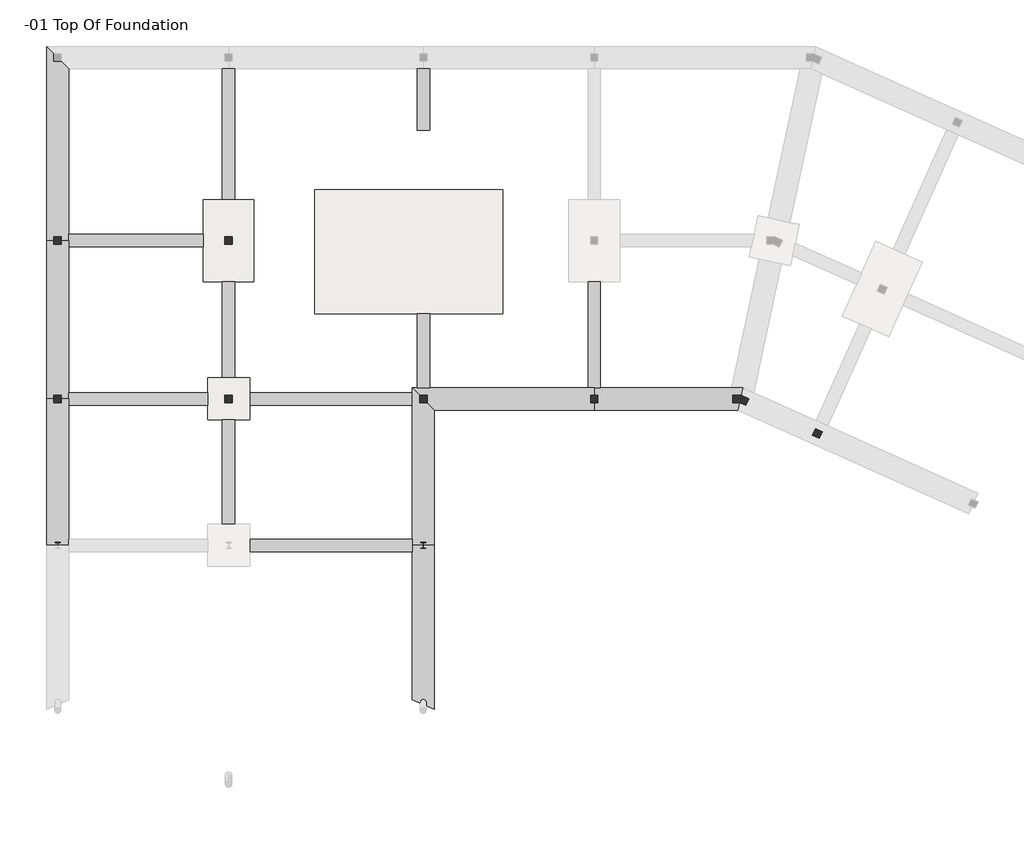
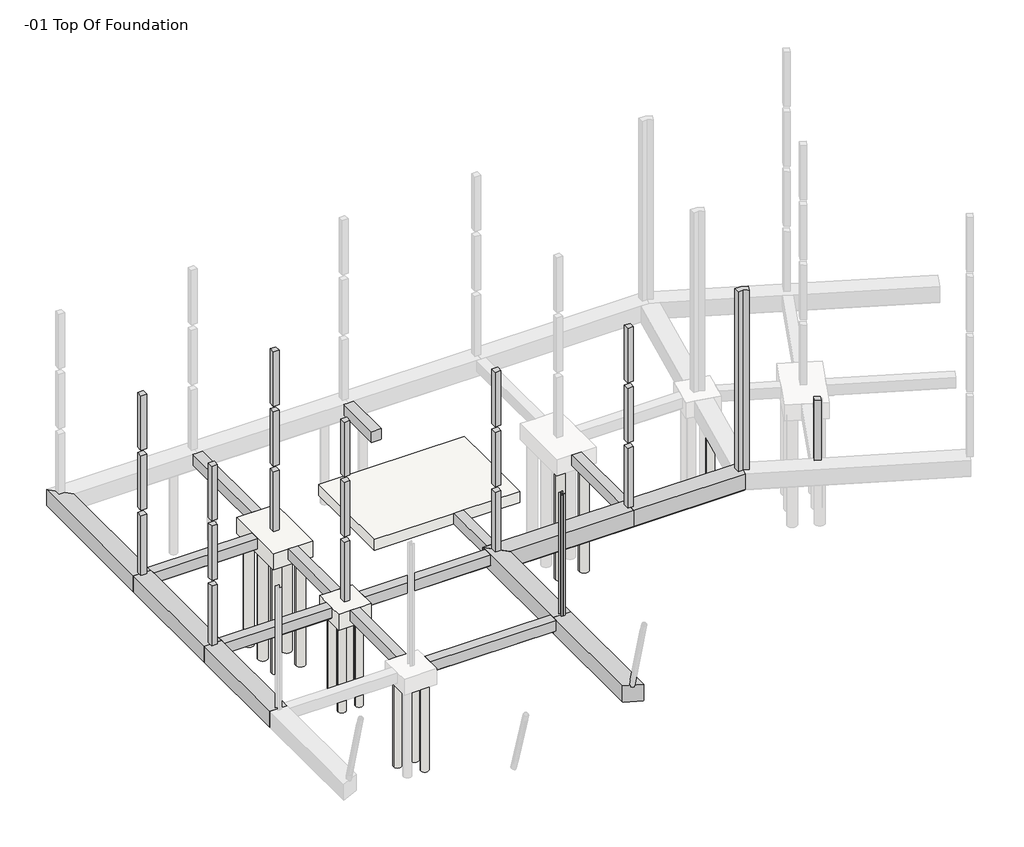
# One storey, part 2 of 4: 19 slabs, 17 beams, 10 columns.
"""IFC4 building model written with IfcOpenShell, lengths in millimetres."""

import ifcopenshell
import ifcopenshell.guid

model = None  # the IFC model being written
_history = None  # IfcOwnerHistory: only IFC2X3 demands one
_inside = {}  # id of a spatial element -> (the spatial element, [elements in it])
_under = {}  # id of a project, library or spatial element -> (it, [spatial elements below it])
_declared = {}  # id of a project -> (the project, [libraries it declares])
_typed = {}  # id of a type object -> (the type object, [elements of that type])
_made_of = {}  # id of a material, layer set ... -> (it, [elements and type objects made of it])


def new_model(schema):
    """Start an empty IFC model of exactly this schema.

    Asked for "IFC4X3", IfcOpenShell would pick the latest addendum, in which some entities
    have other attributes; the version numbers below select the first issue.
    IFC2X3 requires an IfcOwnerHistory on every rooted entity: one is made here for all.
    """
    global model, _history
    if schema == "IFC4X3":
        model = ifcopenshell.file(schema_version=(4, 3, 0, 0))
    else:
        model = ifcopenshell.file(schema=schema)
    _inside.clear()
    _under.clear()
    _declared.clear()
    _typed.clear()
    _made_of.clear()
    _history = None
    if model.schema == "IFC2X3":
        org = make("IfcOrganization", Name="unknown")
        user = make(
            "IfcPersonAndOrganization",
            ThePerson=make("IfcPerson", FamilyName="unknown"),
            TheOrganization=org,
        )
        app = make(
            "IfcApplication",
            ApplicationDeveloper=org,
            Version="unknown",
            ApplicationFullName="unknown",
            ApplicationIdentifier="unknown",
        )
        _history = make(
            "IfcOwnerHistory",
            OwningUser=user,
            OwningApplication=app,
            ChangeAction="ADDED",
            CreationDate=0,
        )
    return model


def make(cls, **values):
    """One entity of the class cls with the attributes given. An attribute that is None is left unset."""
    return model.create_entity(
        cls, **{name: value for name, value in values.items() if value is not None}
    )


def rooted(cls, **values):
    """An entity with a GlobalId (a new one), such as an element, a storey or a relation."""
    return make(cls, GlobalId=ifcopenshell.guid.new(), OwnerHistory=_history, **values)


def si_unit(unit_type, name, prefix=None):
    """IfcSIUnit, for example si_unit("LENGTHUNIT", "METRE", prefix="MILLI")."""
    return make("IfcSIUnit", UnitType=unit_type, Prefix=prefix, Name=name)


def assignment(units):
    """IfcUnitAssignment: the units of a project."""
    return None if units is None else make("IfcUnitAssignment", Units=units)


def point(xyz):
    """IfcCartesianPoint."""
    return None if xyz is None else make("IfcCartesianPoint", Coordinates=xyz)


def direction(xyz):
    """IfcDirection."""
    return None if xyz is None else make("IfcDirection", DirectionRatios=xyz)


def frame(location, z_axis=None, x_axis=None):
    """IfcAxis2Placement3D, a coordinate frame: its origin and axes. An axis left out is left unset."""
    return make(
        "IfcAxis2Placement3D",
        Location=point(location),
        Axis=direction(z_axis),
        RefDirection=direction(x_axis),
    )


def frame_2d(location, x_axis=None):
    """IfcAxis2Placement2D, a coordinate frame in the plane: its origin and x axis."""
    return make(
        "IfcAxis2Placement2D", Location=point(location), RefDirection=direction(x_axis)
    )


def origin():
    """The frame at (0, 0, 0) with its axes left unset."""
    return frame((0.0, 0.0, 0.0))


def place(relative_to, where):
    """IfcLocalPlacement: puts the frame where relative to a parent placement (None: the world)."""
    return make(
        "IfcLocalPlacement", PlacementRelTo=relative_to, RelativePlacement=where
    )


def context(
    kind, dimensions, precision=None, world=None, true_north=None, identifier=None
):
    """IfcGeometricRepresentationContext, for example the 3D "Model" context."""
    return make(
        "IfcGeometricRepresentationContext",
        ContextIdentifier=identifier,
        ContextType=kind,
        CoordinateSpaceDimension=dimensions,
        Precision=precision,
        WorldCoordinateSystem=world,
        TrueNorth=true_north,
    )


def project(units=None, contexts=None):
    """IfcProject with its units and contexts."""
    return rooted(
        "IfcProject",
        Name="project",
        RepresentationContexts=contexts,
        UnitsInContext=assignment(units),
    )


def spatial(cls, under=None, at=None, **own):
    """A site, building, storey or space (cls), placed at a placement, below another one or the project."""
    s = rooted(cls, ObjectPlacement=at, **own)
    if under is not None:
        _under.setdefault(under.id(), (under, []))[1].append(s)
    return s


def polyline(points):
    """IfcPolyline through the points."""
    return make("IfcPolyline", Points=[point(p) for p in points])


def circle_curve(where, radius):
    """IfcCircle in the frame where."""
    return make("IfcCircle", Position=where, Radius=radius)


def trimmed(basis, trim1, trim2, sense, master):
    """IfcTrimmedCurve: the piece of a basis curve between two trims."""
    return make(
        "IfcTrimmedCurve",
        BasisCurve=basis,
        Trim1=trim1,
        Trim2=trim2,
        SenseAgreement=sense,
        MasterRepresentation=master,
    )


def segment(curve, same_sense, transition):
    """IfcCompositeCurveSegment."""
    return make(
        "IfcCompositeCurveSegment",
        Transition=transition,
        SameSense=same_sense,
        ParentCurve=curve,
    )


def composite_curve(segments, self_intersect=None):
    """IfcCompositeCurve: segments joined end to end."""
    return make("IfcCompositeCurve", Segments=segments, SelfIntersect=self_intersect)


def outline(outer, holes=None, kind="AREA"):
    """IfcArbitraryClosedProfileDef: a profile drawn as a closed curve; with holes, ...WithVoids."""
    if holes is None:
        return make("IfcArbitraryClosedProfileDef", ProfileType=kind, OuterCurve=outer)
    return make(
        "IfcArbitraryProfileDefWithVoids",
        ProfileType=kind,
        OuterCurve=outer,
        InnerCurves=holes,
    )


def extrude(swept, where, along, depth):
    """IfcExtrudedAreaSolid: the profile swept, set in the frame where, extruded along a direction by depth."""
    return make(
        "IfcExtrudedAreaSolid",
        SweptArea=swept,
        Position=where,
        ExtrudedDirection=direction(along),
        Depth=depth,
    )


def faces_of(points, faces, orient=None, outer=None):
    """IfcFace entities. A face is a list of loops; a loop is a list of indices into points, from 0.

    orient and outer hold one flag for each loop. By default every Orientation is true, the
    first loop of a face is its IfcFaceOuterBound and the others are IfcFaceBound.
    """
    made = []
    for i, loops in enumerate(faces):
        bounds = []
        for j, loop in enumerate(loops):
            is_outer = j == 0 if outer is None else outer[i][j]
            bounds.append(
                make(
                    "IfcFaceOuterBound" if is_outer else "IfcFaceBound",
                    Bound=make("IfcPolyLoop", Polygon=[points[k] for k in loop]),
                    Orientation=True if orient is None else orient[i][j],
                )
            )
        made.append(make("IfcFace", Bounds=bounds))
    return made


def faceted_brep(points, faces, orient=None, outer=None, voids=None):
    """IfcFacetedBrep: a solid bounded by flat faces; with voids (closed shells), ...WithVoids."""
    shared = [point(p) for p in points]
    hull = make("IfcClosedShell", CfsFaces=faces_of(shared, faces, orient, outer))
    if voids is None:
        return make("IfcFacetedBrep", Outer=hull)
    return make(
        "IfcFacetedBrepWithVoids",
        Outer=hull,
        Voids=[
            make(cls, CfsFaces=faces_of(shared, fs, o, b)) for cls, fs, o, b in voids
        ],
    )


def shape(context_of_items, identifier, shape_type, items):
    """IfcShapeRepresentation: the items that make up one representation, for example the "Body"."""
    return make(
        "IfcShapeRepresentation",
        ContextOfItems=context_of_items,
        RepresentationIdentifier=identifier,
        RepresentationType=shape_type,
        Items=items,
    )


def source(mapping_origin, context_of_items, identifier, shape_type, items):
    """IfcRepresentationMap: a shape defined once, which mapped items show again and again."""
    return make(
        "IfcRepresentationMap",
        MappingOrigin=mapping_origin,
        MappedRepresentation=shape(context_of_items, identifier, shape_type, items),
    )


def transform(
    local_origin,
    x_axis=None,
    y_axis=None,
    z_axis=None,
    scale=None,
    scale2=None,
    scale3=None,
    uniform=True,
):
    """IfcCartesianTransformationOperator3D, or its non-uniform kind. x_axis, y_axis, z_axis: its Axis1, 2, 3."""
    if uniform:
        return make(
            "IfcCartesianTransformationOperator3D",
            Axis1=direction(x_axis),
            Axis2=direction(y_axis),
            LocalOrigin=point(local_origin),
            Scale=scale,
            Axis3=direction(z_axis),
        )
    return make(
        "IfcCartesianTransformationOperator3DnonUniform",
        Axis1=direction(x_axis),
        Axis2=direction(y_axis),
        LocalOrigin=point(local_origin),
        Scale=scale,
        Axis3=direction(z_axis),
        Scale2=scale2,
        Scale3=scale3,
    )


def mapped(mapping_source, mapping_target):
    """IfcMappedItem: shows the shape of a source again, moved by a transform."""
    return make(
        "IfcMappedItem", MappingSource=mapping_source, MappingTarget=mapping_target
    )


def made_of(thing, what):
    """Note that an element or type object is made of a material, layer set ...; save() writes the relation."""
    if what is not None:
        _made_of.setdefault(what.id(), (what, []))[1].append(thing)
    return thing


def element(
    cls,
    number,
    at=None,
    inside=None,
    cuts=None,
    type_object=None,
    material=None,
    context=None,
    identifier="Body",
    shape_type=None,
    held_by="IfcProductDefinitionShape",
    body=None,
    shapes=None,
    **own,
):
    """One element of the class cls, such as IfcWall. Its Tag is "e" and its number.

    at: its placement. inside: the storey or other place that contains it. cuts: it is an
    opening in that element (IfcRelVoidsElement). A single representation is given by context,
    identifier, shape_type and body (its items); several are given by shapes. held_by: the class
    of the entity that holds the representations. save() writes the other relations.
    """
    e = rooted(cls, Tag="e%d" % number, ObjectPlacement=at, **own)
    if body is not None:
        shapes = [shape(context, identifier, shape_type, body)]
    if shapes is not None:
        e.Representation = make(held_by, Representations=shapes)
    if inside is not None:
        _inside.setdefault(inside.id(), (inside, []))[1].append(e)
    if cuts is not None:
        rooted(
            "IfcRelVoidsElement", RelatingBuildingElement=cuts, RelatedOpeningElement=e
        )
    if type_object is not None:
        _typed.setdefault(type_object.id(), (type_object, []))[1].append(e)
    return made_of(e, material)


def aggregate(whole, parts):
    """IfcRelAggregates: a whole, such as a stair, and the parts it consists of."""
    return rooted("IfcRelAggregates", RelatingObject=whole, RelatedObjects=parts)


def save(model, path):
    """Write the relations noted so far, then the file.

    IfcRelAggregates (storeys below a building ...), IfcRelContainedInSpatialStructure (elements
    in a storey), IfcRelDefinesByType, IfcRelAssociatesMaterial and IfcRelDeclares: one each for
    every whole, place, type object, material and project.
    """
    for whole, parts in _under.values():
        aggregate(whole, parts)
    for where, things in _inside.values():
        rooted(
            "IfcRelContainedInSpatialStructure",
            RelatedElements=things,
            RelatingStructure=where,
        )
    for kind, things in _typed.values():
        rooted("IfcRelDefinesByType", RelatedObjects=things, RelatingType=kind)
    for what, things in _made_of.values():
        rooted("IfcRelAssociatesMaterial", RelatedObjects=things, RelatingMaterial=what)
    for by, libraries in _declared.values():
        rooted("IfcRelDeclares", RelatingContext=by, RelatedDefinitions=libraries)
    model.write(path)


def plane_surface(at):
    """IfcPlane: the flat surface through the origin of the frame at, square to its z axis."""
    return make("IfcPlane", Position=at)


def cylinder_surface(at, radius):
    """IfcCylindricalSurface: all points at the distance radius from the z axis of the frame at."""
    return make("IfcCylindricalSurface", Position=at, Radius=radius)


def advanced_brep(points, edges, surfaces, faces):
    """IfcAdvancedBrep: a solid bounded by faces that lie on surfaces and meet in shared edges.

    An edge is (start, end): straight between two places in points (the first is 0);
    or (start, end, curve); or (start, end, curve, False) where it runs against its curve.
    A face is (place in surfaces, loops), or (place, loops, False) where it looks against
    its surface's normal. A loop lists edges by number (the first is 1), with a minus sign
    where the edge is run from its end to its start. The first loop is the outer one.
    """
    corners = [point(p) for p in points]
    vertices = [make("IfcVertexPoint", VertexGeometry=c) for c in corners]
    made = []
    for start, end, *more in edges:
        made.append(
            make(
                "IfcEdgeCurve",
                EdgeStart=vertices[start],
                EdgeEnd=vertices[end],
                EdgeGeometry=more[0] if more else make("IfcPolyline", Points=[corners[start], corners[end]]),
                SameSense=more[1] if len(more) > 1 else True,
            )
        )
    hull = []
    for where, loops, *sense in faces:
        bounds = []
        for j, loop in enumerate(loops):
            ring = [make("IfcOrientedEdge", EdgeElement=made[abs(k) - 1], Orientation=k > 0) for k in loop]
            bounds.append(
                make(
                    "IfcFaceOuterBound" if j == 0 else "IfcFaceBound",
                    Bound=make("IfcEdgeLoop", EdgeList=ring),
                    Orientation=True,
                )
            )
        hull.append(make("IfcAdvancedFace", Bounds=bounds, FaceSurface=surfaces[where], SameSense=sense[0] if sense else True))
    return make("IfcAdvancedBrep", Outer=make("IfcClosedShell", CfsFaces=hull))


def w_shapes_column_w10x33_60aa4128(model_context):
    return source(origin(), model_context, "Body", "SweptSolid", [
        extrude(outline(composite_curve([segment(polyline([(101.092, 123.571), (101.092, 112.522), (16.383, 112.522)]), True, "CONTINUOUS"), segment(trimmed(circle_curve(frame_2d((16.383, 99.822)), 12.7), [point((16.383, 112.522))], [point((3.683, 99.822))], True, "CARTESIAN"), True, "CONTINUOUS"), segment(polyline([(3.683, 99.822), (3.683, -99.822)]), True, "CONTINUOUS"), segment(trimmed(circle_curve(frame_2d((16.383, -99.822)), 12.7), [point((3.683, -99.822))], [point((16.383, -112.522))], True, "CARTESIAN"), True, "CONTINUOUS"), segment(polyline([(16.383, -112.522), (101.092, -112.522), (101.092, -123.571), (-101.092, -123.571), (-101.092, -112.522), (-16.383, -112.522)]), True, "CONTINUOUS"), segment(trimmed(circle_curve(frame_2d((-16.383, -99.822)), 12.7), [point((-16.383, -112.522))], [point((-3.683, -99.822))], True, "CARTESIAN"), True, "CONTINUOUS"), segment(polyline([(-3.683, -99.822), (-3.683, 99.822)]), True, "CONTINUOUS"), segment(trimmed(circle_curve(frame_2d((-16.383, 99.822)), 12.7), [point((-3.683, 99.822))], [point((-16.383, 112.522))], True, "CARTESIAN"), True, "CONTINUOUS"), segment(polyline([(-16.383, 112.522), (-101.092, 112.522), (-101.092, 123.571), (101.092, 123.571)]), True, "CONTINUOUS")], self_intersect=False)), frame((0.0, 0.0, -304.8), z_axis=(0.0, 0.0, 1.0), x_axis=(1.0, 0.0, 0.0)), (0.0, 0.0, 1.0), 6807.2),
    ])


model = new_model("IFC4")

# Units and contexts
model_context = context("Model", 3, world=origin())
ifc_project = project(units=[si_unit("LENGTHUNIT", "METRE", prefix="MILLI")], contexts=[model_context])

# Site, building, storey
site = spatial("IfcSite", under=ifc_project)
building = spatial("IfcBuilding", under=site)
storey = spatial("IfcBuildingStorey", under=building, Name="-01 Top Of Foundation", Elevation=-304.8)

# Beams
placement = place(None, origin())
element("IfcBeam", 1, ObjectType="Ring Beam : 12 x 24", at=placement, inside=storey, context=model_context, shape_type="Brep", body=[
    faceted_brep([(21755.1, -13538.2, -304.8), (22009.1, -13538.2, -304.8), (22263.1, -13538.2, -304.8), (22263.1, -9182.1, -304.8), (21755.1, -9182.1, -304.8), (22263.1, -13538.2, -889.0), (22263.1, -9182.1, -889.0), (22237.7, -13538.2, -914.4), (22237.7, -9182.1, -914.4), (21780.5, -13538.2, -914.4), (21780.5, -9182.1, -914.4), (21755.1, -13538.2, -889.0), (21755.1, -9182.1, -889.0)], [[[0, 1, 2, 3, 4]], [[2, 5, 6, 3]], [[5, 7, 8, 6]], [[7, 9, 10, 8]], [[9, 11, 12, 10]], [[11, 0, 4, 12]], [[5, 2, 1, 0, 11, 9, 7]], [[4, 3, 6, 8, 10, 12]]]),
])
element("IfcBeam", 2, ObjectType="Ring Beam : 12 x 24", at=placement, inside=storey, context=model_context, shape_type="Brep", body=[
    faceted_brep([(457.2, -7251.7, -304.8), (457.2, -7505.7, -304.8), (457.2, -7759.7, -304.8), (5969.0, -7759.7, -304.8), (5969.0, -7251.7, -304.8), (457.2, -7251.7, -889.0), (5969.0, -7251.7, -889.0), (457.2, -7277.1, -914.4), (5969.0, -7277.1, -914.4), (457.2, -7734.3, -914.4), (5969.0, -7734.3, -914.4), (457.2, -7759.7, -889.0), (5969.0, -7759.7, -889.0)], [[[0, 1, 2, 3, 4]], [[5, 0, 4, 6]], [[7, 5, 6, 8]], [[9, 7, 8, 10]], [[11, 9, 10, 12]], [[2, 11, 12, 3]], [[9, 11, 2, 1, 0, 5, 7]], [[4, 3, 12, 10, 8, 6]]]),
])
element("IfcBeam", 3, ObjectType="Ring Beam : 12 x 24", at=placement, inside=storey, context=model_context, shape_type="Brep", body=[
    faceted_brep([(7264.4, -457.2, -304.8), (7010.4, -457.2, -304.8), (6756.4, -457.2, -304.8), (6756.4, -5829.3, -304.8), (7264.4, -5829.3, -304.8), (7264.4, -457.2, -889.0), (7264.4, -5829.3, -889.0), (7239.0, -457.2, -914.4), (7239.0, -5829.3, -914.4), (6781.8, -457.2, -914.4), (6781.8, -5829.3, -914.4), (6756.4, -457.2, -889.0), (6756.4, -5829.3, -889.0)], [[[0, 1, 2, 3, 4]], [[5, 0, 4, 6]], [[7, 5, 6, 8]], [[9, 7, 8, 10]], [[11, 9, 10, 12]], [[2, 11, 12, 3]], [[0, 5, 7, 9, 11, 2, 1]], [[4, 3, 12, 10, 8, 6]]]),
])
element("IfcBeam", 4, ObjectType="Ring Beam : 12 x 24", at=placement, inside=storey, context=model_context, shape_type="Brep", body=[
    faceted_brep([(14744.7, -2984.5, -304.8), (15252.7, -2984.5, -304.8), (15252.7, -457.2, -304.8), (14998.7, -457.2, -304.8), (14744.7, -457.2, -304.8), (14744.7, -2984.5, -889.0), (14744.7, -457.2, -889.0), (14770.1, -2984.5, -914.4), (14770.1, -457.2, -914.4), (15227.3, -2984.5, -914.4), (15227.3, -457.2, -914.4), (15252.7, -2984.5, -889.0), (15252.7, -457.2, -889.0)], [[[0, 1, 2, 3, 4]], [[5, 0, 4, 6]], [[7, 5, 6, 8]], [[9, 7, 8, 10]], [[11, 9, 10, 12]], [[1, 11, 12, 2]], [[1, 0, 5, 7, 9, 11]], [[2, 12, 10, 8, 6, 4, 3]]]),
])
element("IfcBeam", 5, ObjectType="Ring Beam : 12 x 24", at=placement, inside=storey, context=model_context, shape_type="SweptSolid", body=[
    extrude(outline(polyline([(-304.8, 15252.7), (-304.8, 14744.7), (-889.0, 14744.7), (-914.4, 14770.1), (-914.4, 15227.3), (-889.0, 15252.7), (-304.8, 15252.7)])), frame((0.0, -13538.2, 0.0), z_axis=(0.0, 1.0, 0.0), x_axis=(0.0, 0.0, 1.0)), (0.0, 0.0, 1.0), 3035.3),
])
element("IfcBeam", 6, ObjectType="Ring Beam : 12 x 24", at=placement, inside=storey, context=model_context, shape_type="SweptSolid", body=[
    extrude(outline(polyline([(-14249.4, -304.8), (-13741.4, -304.8), (-13741.4, -889.0), (-13766.8, -914.4), (-14224.0, -914.4), (-14249.4, -889.0), (-14249.4, -304.8)])), frame((7874.0, 0.0, 0.0), z_axis=(1.0, 0.0, 0.0), x_axis=(0.0, 1.0, 0.0)), (0.0, 0.0, 1.0), 6667.5),
])
element("IfcBeam", 7, ObjectType="Ring Beam : 12 x 24", at=placement, inside=storey, context=model_context, shape_type="SweptSolid", body=[
    extrude(outline(polyline([(-304.8, 7264.4), (-304.8, 6756.4), (-889.0, 6756.4), (-914.4, 6781.8), (-914.4, 7239.0), (-889.0, 7264.4), (-304.8, 7264.4)])), frame((0.0, -13131.8, 0.0), z_axis=(0.0, 1.0, 0.0), x_axis=(0.0, 0.0, 1.0)), (0.0, 0.0, 1.0), 3949.7),
])
element("IfcBeam", 8, ObjectType="Ring Beam : 12 x 24", at=placement, inside=storey, context=model_context, shape_type="SweptSolid", body=[
    extrude(outline(polyline([(-304.8, 7264.4), (-304.8, 6756.4), (-889.0, 6756.4), (-914.4, 6781.8), (-914.4, 7239.0), (-889.0, 7264.4), (-304.8, 7264.4)])), frame((0.0, -19138.9, 0.0), z_axis=(0.0, 1.0, 0.0), x_axis=(0.0, 0.0, 1.0)), (0.0, 0.0, 1.0), 4279.9),
])
element("IfcBeam", 9, ObjectType="Ring Beam : 12 x 24", at=placement, inside=storey, context=model_context, shape_type="Brep", body=[
    faceted_brep([(457.2, -13741.4, -304.8), (457.2, -13995.4, -304.8), (457.2, -14249.4, -304.8), (6146.8, -14249.4, -304.8), (6146.8, -13741.4, -304.8), (457.2, -13741.4, -889.0), (6146.8, -13741.4, -889.0), (457.2, -13766.8, -914.4), (6146.8, -13766.8, -914.4), (457.2, -14224.0, -914.4), (6146.8, -14224.0, -914.4), (457.2, -14249.4, -889.0), (6146.8, -14249.4, -889.0)], [[[0, 1, 2, 3, 4]], [[5, 0, 4, 6]], [[7, 5, 6, 8]], [[9, 7, 8, 10]], [[11, 9, 10, 12]], [[2, 11, 12, 3]], [[0, 5, 7, 9, 11, 2, 1]], [[4, 3, 12, 10, 8, 6]]]),
])
element("IfcBeam", 10, ObjectType="Ring Beam : 12 x 24", at=placement, inside=storey, context=model_context, shape_type="Brep", body=[
    faceted_brep([(14541.5, -20256.5, -304.8), (14541.5, -20002.5, -304.8), (14541.5, -19748.5, -304.8), (7874.0, -19748.5, -304.8), (7874.0, -20256.5, -304.8), (14541.5, -20256.5, -889.0), (7874.0, -20256.5, -889.0), (14541.5, -20231.1, -914.4), (7874.0, -20231.1, -914.4), (14541.5, -19773.9, -914.4), (7874.0, -19773.9, -914.4), (14541.5, -19748.5, -889.0), (7874.0, -19748.5, -889.0)], [[[0, 1, 2, 3, 4]], [[5, 0, 4, 6]], [[7, 5, 6, 8]], [[9, 7, 8, 10]], [[11, 9, 10, 12]], [[2, 11, 12, 3]], [[0, 5, 7, 9, 11, 2, 1]], [[4, 3, 12, 10, 8, 6]]]),
])
element("IfcBeam", 11, ObjectType="Ring Beam : 16 x 32", at=placement, inside=storey, context=model_context, shape_type="Brep", body=[
    faceted_brep([(457.2, -7505.7, -304.8), (457.2, -7251.7, -304.8), (457.2, -457.2, -304.8), (-457.2, 457.2, -304.8), (-457.2, -7505.7, -304.8), (-457.2, 457.2, -1193.8), (-457.2, -7505.7, -1193.8), (-431.8, 431.8, -1219.2), (-431.8, -7505.7, -1219.2), (431.8, -431.8, -1219.2), (431.8, -7505.7, -1219.2), (457.2, -457.2, -1193.8), (457.2, -7505.7, -1193.8)], [[[0, 1, 2, 3, 4]], [[4, 3, 5, 6]], [[6, 5, 7, 8]], [[8, 7, 9, 10]], [[10, 9, 11, 12]], [[2, 1, 0, 12, 11]], [[2, 11, 9, 7, 5, 3]], [[0, 4, 6, 8, 10, 12]]]),
])
element("IfcBeam", 12, ObjectType="Ring Beam : 16 x 32", at=placement, inside=storey, context=model_context, shape_type="Brep", body=[
    faceted_brep([(-457.2, -20002.5, -304.8), (457.2, -20002.5, -304.8), (457.2, -19748.5, -304.8), (457.2, -14249.4, -304.8), (457.2, -13995.4, -304.8), (-457.2, -13995.4, -304.8), (-457.2, -14452.6, -304.8), (-457.2, -20002.5, -1193.8), (-457.2, -13995.4, -1193.8), (-431.8, -20002.5, -1219.2), (-431.8, -13995.4, -1219.2), (431.8, -20002.5, -1219.2), (431.8, -13995.4, -1219.2), (457.2, -20002.5, -1193.8), (457.2, -13995.4, -1193.8)], [[[0, 1, 2, 3, 4, 5, 6]], [[7, 0, 6, 5, 8]], [[9, 7, 8, 10]], [[11, 9, 10, 12]], [[13, 11, 12, 14]], [[1, 13, 14, 4, 3, 2]], [[4, 14, 12, 10, 8, 5]], [[1, 0, 7, 9, 11, 13]]]),
])
element("IfcBeam", 13, ObjectType="Ring Beam : 16 x 32", at=placement, inside=storey, context=model_context, shape_type="Brep", body=[
    faceted_brep([(14541.5, -20002.5, -304.8), (15455.9, -20002.5, -304.8), (15455.9, -14452.6, -304.8), (14541.5, -13538.2, -304.8), (14541.5, -13741.4, -304.8), (14541.5, -14249.4, -304.8), (14541.5, -19748.5, -304.8), (14541.5, -20002.5, -1193.8), (14541.5, -13538.2, -1193.8), (14566.9, -20002.5, -1219.2), (14566.9, -13563.6, -1219.2), (15430.5, -20002.5, -1219.2), (15430.5, -14427.2, -1219.2), (15455.9, -20002.5, -1193.8), (15455.9, -14452.6, -1193.8)], [[[0, 1, 2, 3, 4, 5, 6]], [[7, 0, 6, 5, 4, 3, 8]], [[9, 7, 8, 10]], [[11, 9, 10, 12]], [[13, 11, 12, 14]], [[1, 13, 14, 2]], [[2, 14, 12, 10, 8, 3]], [[1, 0, 7, 9, 11, 13]]]),
])
element("IfcBeam", 14, ObjectType="Ring Beam : 16 x 32", at=placement, inside=storey, context=model_context, shape_type="Brep", body=[
    faceted_brep([(22009.1, -13538.2, -304.8), (21755.1, -13538.2, -304.8), (15252.7, -13538.2, -304.8), (14744.7, -13538.2, -304.8), (14541.5, -13538.2, -304.8), (15455.9, -14452.6, -304.8), (22009.1, -14452.6, -304.8), (15455.9, -14452.6, -1193.8), (22009.1, -14452.6, -1193.8), (15430.5, -14427.2, -1219.2), (22009.1, -14427.2, -1219.2), (14566.9, -13563.6, -1219.2), (22009.1, -13563.6, -1219.2), (14541.5, -13538.2, -1193.8), (22009.1, -13538.2, -1193.8)], [[[0, 1, 2, 3, 4, 5, 6]], [[6, 5, 7, 8]], [[8, 7, 9, 10]], [[10, 9, 11, 12]], [[12, 11, 13, 14]], [[4, 3, 2, 1, 0, 14, 13]], [[4, 13, 11, 9, 7, 5]], [[0, 6, 8, 10, 12, 14]]]),
])
element("IfcBeam", 15, ObjectType="Ring Beam : 16 x 32", at=placement, inside=storey, context=model_context, shape_type="Brep", body=[
    faceted_brep([(27903.7815965, -14452.6, -304.8), (28099.7244536, -13538.2, -304.8), (27649.987277, -13538.2, -304.8), (22263.1, -13538.2, -304.8), (22009.1, -13538.2, -304.8), (22009.1, -14452.6, -304.8), (27903.7815965, -14452.6, -1193.8), (22009.1, -14452.6, -1193.8), (27909.2244536, -14427.2, -1219.2), (22009.1, -14427.2, -1219.2), (28094.2815965, -13563.6, -1219.2), (22009.1, -13563.6, -1219.2), (27670.521038, -13563.6, -1219.2), (28099.7244536, -13538.2, -1193.8), (22009.1, -13538.2, -1193.8), (27649.987277, -13538.2, -1193.8)], [[[0, 1, 2, 3, 4, 5]], [[6, 0, 5, 7]], [[8, 6, 7, 9]], [[10, 8, 9, 11, 12]], [[13, 10, 12, 11, 14, 15]], [[1, 13, 15, 14, 4, 3, 2]], [[1, 0, 6, 8, 10, 13]], [[4, 14, 11, 9, 7, 5]]]),
])
element("IfcBeam", 16, ObjectType="Ring Beam : 16 x 32", at=placement, inside=storey, context=model_context, shape_type="Brep", body=[
    faceted_brep([(14541.5, -26332.3874204, -304.8), (15455.9, -26723.3402351, -304.8), (15455.9, -20002.5, -304.8), (14541.5, -20002.5, -304.8), (14541.5, -20256.5, -304.8), (14541.5, -26332.3874204, -1193.8), (14541.5, -20002.5, -1193.8), (14566.9, -26343.2472208, -1219.2), (14566.9, -20002.5, -1219.2), (15430.5, -26712.4804347, -1219.2), (15430.5, -20002.5, -1219.2), (15455.9, -26723.3402351, -1193.8), (15455.9, -20002.5, -1193.8)], [[[0, 1, 2, 3, 4]], [[5, 0, 4, 3, 6]], [[7, 5, 6, 8]], [[9, 7, 8, 10]], [[11, 9, 10, 12]], [[1, 11, 12, 2]], [[1, 0, 5, 7, 9, 11]], [[2, 12, 10, 8, 6, 3]]]),
])
element("IfcBeam", 17, ObjectType="Ring Beam : 16 x 32", at=placement, inside=storey, context=model_context, shape_type="Brep", body=[
    faceted_brep([(-457.2, -13995.4, -304.8), (457.2, -13995.4, -304.8), (457.2, -13741.4, -304.8), (457.2, -7759.7, -304.8), (457.2, -7505.7, -304.8), (-457.2, -7505.7, -304.8), (-457.2, -13995.4, -1193.8), (-457.2, -7505.7, -1193.8), (-431.8, -13995.4, -1219.2), (-431.8, -7505.7, -1219.2), (431.8, -13995.4, -1219.2), (431.8, -7505.7, -1219.2), (457.2, -13995.4, -1193.8), (457.2, -7505.7, -1193.8)], [[[0, 1, 2, 3, 4, 5]], [[6, 0, 5, 7]], [[8, 6, 7, 9]], [[10, 8, 9, 11]], [[12, 10, 11, 13]], [[1, 12, 13, 4, 3, 2]], [[1, 0, 6, 8, 10, 12]], [[4, 13, 11, 9, 7, 5]]]),
])

# Columns
element("IfcColumn", 18, ObjectType="Cranked Corner Column : CC1", at=placement, inside=storey, context=model_context, shape_type="SweptSolid", body=[
    extrude(outline(polyline([(27696.953025, -13843.0), (28034.376757, -13843.0), (28342.2369275, -13981.275122), (28217.3432689, -14259.3121951), (27969.1292931, -14147.8), (27696.953025, -14147.8), (27696.953025, -13843.0)])), frame((0.0, 0.0, -304.8), z_axis=(0.0, 0.0, 1.0), x_axis=(1.0, 0.0, 0.0)), (0.0, 0.0, 1.0), 10058.4),
])
element("IfcColumn", 19, ObjectType="Concrete-Rectangular-Column : 12 x 12", at=placement, inside=storey, context=model_context, shape_type="SweptSolid", body=[
    extrude(outline(polyline([(7162.8, -7353.3), (7162.8, -7658.1), (6858.0, -7658.1), (6858.0, -7353.3), (7162.8, -7353.3)])), frame((0.0, 0.0, -304.8), z_axis=(0.0, 0.0, 1.0), x_axis=(1.0, 0.0, 0.0)), (0.0, 0.0, 1.0), 3352.8),
    extrude(outline(polyline([(7162.8, -7353.3), (7162.8, -7658.1), (6858.0, -7658.1), (6858.0, -7353.3), (7162.8, -7353.3)])), frame((0.0, 0.0, 6705.6), z_axis=(0.0, 0.0, 1.0), x_axis=(1.0, 0.0, 0.0)), (0.0, 0.0, 1.0), 3048.0),
    extrude(outline(polyline([(7162.8, -7353.3), (7162.8, -7658.1), (6858.0, -7658.1), (6858.0, -7353.3), (7162.8, -7353.3)])), frame((0.0, 0.0, 3352.8), z_axis=(0.0, 0.0, 1.0), x_axis=(1.0, 0.0, 0.0)), (0.0, 0.0, 1.0), 3048.0),
])
element("IfcColumn", 20, ObjectType="Concrete-Rectangular-Column : 12 x 12", at=placement, inside=storey, context=model_context, shape_type="Brep", body=[
    faceted_brep([(152.4, -7353.3, -304.8), (152.4, -7658.1, -304.8), (-152.4, -7658.1, -304.8), (-152.4, -7353.3, -304.8), (152.4, -7658.1, 3048.0), (152.4, -7353.3, 3048.0), (-152.4, -7353.3, 3048.0), (-152.4, -7658.1, 3048.0), (152.4, -7353.3, 0.0), (152.4, -7658.1, 0.0), (-152.4, -7658.1, 0.0), (-152.4, -7353.3, 0.0)], [[[0, 1, 2, 3]], [[4, 5, 6, 7]], [[1, 0, 8, 5, 4, 9]], [[2, 1, 9, 4, 7, 10]], [[3, 2, 10, 7, 6, 11]], [[0, 3, 11, 6, 5, 8]]]),
    faceted_brep([(152.4, -7658.1, 6705.6), (152.4, -7353.3, 6705.6), (152.4, -7353.3, 9753.6), (152.4, -7658.1, 9753.6), (-152.4, -7658.1, 6705.6), (-152.4, -7658.1, 9753.6), (-152.4, -7353.3, 6705.6), (-152.4, -7353.3, 9753.6)], [[[0, 1, 2, 3]], [[4, 0, 3, 5]], [[6, 4, 5, 7]], [[1, 6, 7, 2]], [[1, 0, 4, 6]], [[3, 2, 7, 5]]]),
    faceted_brep([(152.4, -7658.1, 6400.8), (152.4, -7353.3, 6400.8), (-152.4, -7353.3, 6400.8), (-152.4, -7658.1, 6400.8), (152.4, -7658.1, 3352.8), (152.4, -7353.3, 3352.8), (-152.4, -7658.1, 3352.8), (-152.4, -7353.3, 3352.8)], [[[0, 1, 2, 3]], [[1, 0, 4, 5]], [[0, 3, 6, 4]], [[3, 2, 7, 6]], [[2, 1, 5, 7]], [[5, 4, 6, 7]]]),
])
element("IfcColumn", 21, ObjectType="Concrete-Rectangular-Column : 12 x 12", at=placement, inside=storey, context=model_context, shape_type="Brep", body=[
    faceted_brep([(152.4, -13843.0, -304.8), (152.4, -14147.8, -304.8), (-152.4, -14147.8, -304.8), (-152.4, -13843.0, -304.8), (152.4, -13843.0, 0.0), (152.4, -13843.0, 3048.0), (152.4, -14147.8, 3048.0), (152.4, -14147.8, 0.0), (-152.4, -14147.8, 3048.0), (-152.4, -14147.8, 0.0), (-152.4, -13843.0, 3048.0), (-152.4, -13843.0, 0.0)], [[[0, 1, 2, 3]], [[1, 0, 4, 5, 6, 7]], [[2, 1, 7, 6, 8, 9]], [[3, 2, 9, 8, 10, 11]], [[0, 3, 11, 10, 5, 4]], [[6, 5, 10, 8]]]),
    faceted_brep([(152.4, -14147.8, 6705.6), (152.4, -13843.0, 6705.6), (152.4, -13843.0, 9753.6), (152.4, -14147.8, 9753.6), (-152.4, -14147.8, 6705.6), (-152.4, -14147.8, 9753.6), (-152.4, -13843.0, 6705.6), (-152.4, -13843.0, 9753.6)], [[[0, 1, 2, 3]], [[4, 0, 3, 5]], [[6, 4, 5, 7]], [[1, 6, 7, 2]], [[1, 0, 4, 6]], [[3, 2, 7, 5]]]),
    faceted_brep([(152.4, -13843.0, 3352.8), (152.4, -14147.8, 3352.8), (-152.4, -14147.8, 3352.8), (-152.4, -13843.0, 3352.8), (152.4, -14147.8, 6400.8), (152.4, -13843.0, 6400.8), (-152.4, -13843.0, 6400.8), (-152.4, -14147.8, 6400.8)], [[[0, 1, 2, 3]], [[4, 5, 6, 7]], [[1, 0, 5, 4]], [[2, 1, 4, 7]], [[3, 2, 7, 6]], [[0, 3, 6, 5]]]),
])
element("IfcColumn", 22, ObjectType="Concrete-Rectangular-Column : 12 x 12", at=placement, inside=storey, context=model_context, shape_type="SweptSolid", body=[
    extrude(outline(polyline([(15151.1, -13843.0), (15151.1, -14147.8), (14846.3, -14147.8), (14846.3, -13843.0), (15151.1, -13843.0)])), frame((0.0, 0.0, -304.8), z_axis=(0.0, 0.0, 1.0), x_axis=(1.0, 0.0, 0.0)), (0.0, 0.0, 1.0), 3352.8),
    extrude(outline(polyline([(15151.1, -13843.0), (15151.1, -14147.8), (14846.3, -14147.8), (14846.3, -13843.0), (15151.1, -13843.0)])), frame((0.0, 0.0, 6705.6), z_axis=(0.0, 0.0, 1.0), x_axis=(1.0, 0.0, 0.0)), (0.0, 0.0, 1.0), 3048.0),
    extrude(outline(polyline([(15151.1, -13843.0), (15151.1, -14147.8), (14846.3, -14147.8), (14846.3, -13843.0), (15151.1, -13843.0)])), frame((0.0, 0.0, 3352.8), z_axis=(0.0, 0.0, 1.0), x_axis=(1.0, 0.0, 0.0)), (0.0, 0.0, 1.0), 3048.0),
])
element("IfcColumn", 23, ObjectType="Concrete-Rectangular-Column : 12 x 12", at=placement, inside=storey, context=model_context, shape_type="SweptSolid", body=[
    extrude(outline(polyline([(22161.5, -13843.0), (22161.5, -14147.8), (21856.7, -14147.8), (21856.7, -13843.0), (22161.5, -13843.0)])), frame((0.0, 0.0, -304.8), z_axis=(0.0, 0.0, 1.0), x_axis=(1.0, 0.0, 0.0)), (0.0, 0.0, 1.0), 3352.8),
    extrude(outline(polyline([(22161.5, -13843.0), (22161.5, -14147.8), (21856.7, -14147.8), (21856.7, -13843.0), (22161.5, -13843.0)])), frame((0.0, 0.0, 6705.6), z_axis=(0.0, 0.0, 1.0), x_axis=(1.0, 0.0, 0.0)), (0.0, 0.0, 1.0), 3048.0),
    extrude(outline(polyline([(22161.5, -13843.0), (22161.5, -14147.8), (21856.7, -14147.8), (21856.7, -13843.0), (22161.5, -13843.0)])), frame((0.0, 0.0, 3352.8), z_axis=(0.0, 0.0, 1.0), x_axis=(1.0, 0.0, 0.0)), (0.0, 0.0, 1.0), 3048.0),
])
element("IfcColumn", 24, ObjectType="Concrete-Rectangular-Column : 12 x 12", at=placement, inside=storey, context=model_context, shape_type="Brep", body=[
    faceted_brep([(7162.8, -13843.0, -304.8), (7162.8, -14147.8, -304.8), (6858.0, -14147.8, -304.8), (6858.0, -13843.0, -304.8), (7162.8, -13843.0, 0.0), (7162.8, -13843.0, 3048.0), (7162.8, -14147.8, 3048.0), (7162.8, -14147.8, 0.0), (6858.0, -14147.8, 3048.0), (6858.0, -14147.8, 0.0), (6858.0, -13843.0, 3048.0), (6858.0, -13843.0, 0.0)], [[[0, 1, 2, 3]], [[1, 0, 4, 5, 6, 7]], [[2, 1, 7, 6, 8, 9]], [[3, 2, 9, 8, 10, 11]], [[0, 3, 11, 10, 5, 4]], [[6, 5, 10, 8]]]),
    faceted_brep([(7162.8, -14147.8, 6705.6), (7162.8, -13843.0, 6705.6), (7162.8, -13843.0, 9753.6), (7162.8, -14147.8, 9753.6), (6858.0, -14147.8, 6705.6), (6858.0, -14147.8, 9753.6), (6858.0, -13843.0, 6705.6), (6858.0, -13843.0, 9753.6)], [[[0, 1, 2, 3]], [[4, 0, 3, 5]], [[6, 4, 5, 7]], [[1, 6, 7, 2]], [[1, 0, 4, 6]], [[3, 2, 7, 5]]]),
    faceted_brep([(7162.8, -13843.0, 3352.8), (7162.8, -14147.8, 3352.8), (6858.0, -14147.8, 3352.8), (6858.0, -13843.0, 3352.8), (7162.8, -14147.8, 6400.8), (7162.8, -13843.0, 6400.8), (6858.0, -13843.0, 6400.8), (6858.0, -14147.8, 6400.8)], [[[0, 1, 2, 3]], [[4, 5, 6, 7]], [[1, 0, 5, 4]], [[2, 1, 4, 7]], [[3, 2, 7, 6]], [[0, 3, 6, 5]]]),
])
element("IfcColumn", 25, ObjectType="Concrete-Rectangular-Column : 12 x 12", at=placement, inside=storey, context=model_context, shape_type="Brep", body=[
    faceted_brep([(31086.1980425, -15213.8565854, 3352.8), (31364.2351156, -15338.7502439, 3352.8), (31364.2351156, -15338.7502439, 3048.0), (31364.2351156, -15338.7502439, 0.0), (31086.1980425, -15213.8565854, 0.0), (31086.1980425, -15213.8565854, 3048.0), (31239.3414571, -15616.7873171, 3352.8), (31239.3414571, -15616.7873171, 3048.0), (31239.3414571, -15616.7873171, 0.0), (30961.3043839, -15491.8936585, 3352.8), (30961.3043839, -15491.8936585, 3048.0), (30961.3043839, -15491.8936585, 0.0)], [[[0, 1, 2, 3, 4, 5]], [[1, 6, 7, 8, 3, 2]], [[6, 9, 10, 11, 8, 7]], [[9, 0, 5, 4, 11, 10]], [[1, 0, 9, 6]], [[4, 3, 8, 11]]]),
])
w_shapes_column_w10x33_shape = w_shapes_column_w10x33_60aa4128(model_context)
element("IfcColumn", 26, ObjectType="W Shapes-Column : W10X33", at=placement, inside=storey, context=model_context, shape_type="MappedRepresentation", body=[
    mapped(w_shapes_column_w10x33_shape, transform((14998.7, -20002.5, 0.0), x_axis=(1.0, 0.0, 0.0), y_axis=(0.0, 1.0, 0.0), z_axis=(0.0, 0.0, 1.0))),
])
element("IfcColumn", 27, ObjectType="W Shapes-Column : W10X33", at=placement, inside=storey, context=model_context, shape_type="MappedRepresentation", body=[
    mapped(w_shapes_column_w10x33_shape, transform((7010.4, -20002.5, 0.0), x_axis=(1.0, 0.0, 0.0), y_axis=(0.0, 1.0, 0.0), z_axis=(0.0, 0.0, 1.0))),
])

# Slabs
element("IfcSlab", 28, ObjectType="24\" Foundation Slab", at=placement, inside=storey, context=model_context, shape_type="Brep", body=[
    faceted_brep([(18249.9, -5422.9, -914.4), (18249.9, -7277.1, -914.4), (18249.9, -7734.3, -914.4), (18249.9, -10502.9, -914.4), (15227.3, -10502.9, -914.4), (14770.1, -10502.9, -914.4), (10553.7, -10502.9, -914.4), (10553.7, -7734.3, -914.4), (10553.7, -7277.1, -914.4), (10553.7, -5422.9, -914.4), (18249.9, -5422.9, -304.8), (10553.7, -5422.9, -304.8), (10553.7, -7251.7, -304.8), (10553.7, -7759.7, -304.8), (10553.7, -10502.9, -304.8), (14744.7, -10502.9, -304.8), (15252.7, -10502.9, -304.8), (18249.9, -10502.9, -304.8), (18249.9, -7759.7, -304.8), (18249.9, -7251.7, -304.8)], [[[0, 1, 2, 3, 4, 5, 6, 7, 8, 9]], [[10, 11, 12, 13, 14, 15, 16, 17, 18, 19]], [[3, 2, 1, 0, 10, 19, 18, 17]], [[6, 5, 4, 3, 17, 16, 15, 14]], [[9, 8, 7, 6, 14, 13, 12, 11]], [[0, 9, 11, 10]]]),
])
element("IfcSlab", 29, ObjectType="Pile Cap-4 Pile : 68\"x68\"x35\"", at=placement, inside=storey, context=model_context, shape_type="Brep", body=[
    faceted_brep([(7874.0, -13131.8, -304.8), (7264.4, -13131.8, -304.8), (6756.4, -13131.8, -304.8), (6146.8, -13131.8, -304.8), (6146.8, -13741.4, -304.8), (6146.8, -14249.4, -304.8), (6146.8, -14859.0, -304.8), (6756.4, -14859.0, -304.8), (7264.4, -14859.0, -304.8), (7874.0, -14859.0, -304.8), (7874.0, -14249.4, -304.8), (7874.0, -13741.4, -304.8), (7874.0, -13131.8, -1193.8), (7874.0, -14859.0, -1193.8), (6146.8, -14859.0, -1193.8), (6146.8, -13131.8, -1193.8)], [[[0, 1, 2, 3, 4, 5, 6, 7, 8, 9, 10, 11]], [[12, 13, 14, 15]], [[3, 2, 1, 0, 12, 15]], [[6, 5, 4, 3, 15, 14]], [[9, 8, 7, 6, 14, 13]], [[0, 11, 10, 9, 13, 12]]]),
])
element("IfcSlab", 30, ObjectType="Pile Cap-6 Pile : 132\"x82\"x35\"", at=placement, inside=storey, context=model_context, shape_type="Brep", body=[
    faceted_brep([(5969.0, -9182.1, -304.8), (6756.4, -9182.1, -304.8), (7264.4, -9182.1, -304.8), (8051.8, -9182.1, -304.8), (8051.8, -7759.7, -304.8), (8051.8, -7251.7, -304.8), (8051.8, -5829.3, -304.8), (7264.4, -5829.3, -304.8), (6756.4, -5829.3, -304.8), (5969.0, -5829.3, -304.8), (5969.0, -7251.7, -304.8), (5969.0, -7759.7, -304.8), (5969.0, -9182.1, -1193.8), (5969.0, -5829.3, -1193.8), (8051.8, -5829.3, -1193.8), (8051.8, -9182.1, -1193.8)], [[[0, 1, 2, 3, 4, 5, 6, 7, 8, 9, 10, 11]], [[12, 13, 14, 15]], [[3, 2, 1, 0, 12, 15]], [[6, 5, 4, 3, 15, 14]], [[9, 8, 7, 6, 14, 13]], [[0, 11, 10, 9, 13, 12]]]),
])
element("IfcSlab", 31, ObjectType="Round In Situ Concrete Pile : 16\" Diameter 16'", at=placement, inside=storey, context=model_context, shape_type="SweptSolid", body=[
    extrude(outline(composite_curve([segment(trimmed(circle_curve(frame_2d((6553.2, -13538.2)), 203.2), [point((6350.0, -13538.2))], [point((6756.4, -13538.2))], False, "CARTESIAN"), True, "CONTINUOUS"), segment(trimmed(circle_curve(frame_2d((6553.2, -13538.2)), 203.2), [point((6756.4, -13538.2))], [point((6350.0, -13538.2))], False, "CARTESIAN"), True, "CONTINUOUS")], self_intersect=False)), frame((0.0, 0.0, -6070.6), z_axis=(0.0, 0.0, 1.0), x_axis=(1.0, 0.0, 0.0)), (0.0, 0.0, 1.0), 4876.8),
])
element("IfcSlab", 32, ObjectType="Round In Situ Concrete Pile : 16\" Diameter 16'", at=placement, inside=storey, context=model_context, shape_type="SweptSolid", body=[
    extrude(outline(composite_curve([segment(trimmed(circle_curve(frame_2d((6553.2, -14452.6)), 203.2), [point((6350.0, -14452.6))], [point((6756.4, -14452.6))], False, "CARTESIAN"), True, "CONTINUOUS"), segment(trimmed(circle_curve(frame_2d((6553.2, -14452.6)), 203.2), [point((6756.4, -14452.6))], [point((6350.0, -14452.6))], False, "CARTESIAN"), True, "CONTINUOUS")], self_intersect=False)), frame((0.0, 0.0, -6070.6), z_axis=(0.0, 0.0, 1.0), x_axis=(1.0, 0.0, 0.0)), (0.0, 0.0, 1.0), 4876.8),
])
element("IfcSlab", 33, ObjectType="Round In Situ Concrete Pile : 16\" Diameter 16'", at=placement, inside=storey, context=model_context, shape_type="SweptSolid", body=[
    extrude(outline(composite_curve([segment(trimmed(circle_curve(frame_2d((7467.6, -14452.6)), 203.2), [point((7264.4, -14452.6))], [point((7670.8, -14452.6))], False, "CARTESIAN"), True, "CONTINUOUS"), segment(trimmed(circle_curve(frame_2d((7467.6, -14452.6)), 203.2), [point((7670.8, -14452.6))], [point((7264.4, -14452.6))], False, "CARTESIAN"), True, "CONTINUOUS")], self_intersect=False)), frame((0.0, 0.0, -6070.6), z_axis=(0.0, 0.0, 1.0), x_axis=(1.0, 0.0, 0.0)), (0.0, 0.0, 1.0), 4876.8),
])
element("IfcSlab", 34, ObjectType="Round In Situ Concrete Pile : 16\" Diameter 16'", at=placement, inside=storey, context=model_context, shape_type="SweptSolid", body=[
    extrude(outline(composite_curve([segment(trimmed(circle_curve(frame_2d((7467.6, -13538.2)), 203.2), [point((7264.4, -13538.2))], [point((7670.8, -13538.2))], False, "CARTESIAN"), True, "CONTINUOUS"), segment(trimmed(circle_curve(frame_2d((7467.6, -13538.2)), 203.2), [point((7670.8, -13538.2))], [point((7264.4, -13538.2))], False, "CARTESIAN"), True, "CONTINUOUS")], self_intersect=False)), frame((0.0, 0.0, -6070.6), z_axis=(0.0, 0.0, 1.0), x_axis=(1.0, 0.0, 0.0)), (0.0, 0.0, 1.0), 4876.8),
])
element("IfcSlab", 35, ObjectType="Round In Situ Concrete Pile : 16\" Diameter 16'", at=placement, inside=storey, context=model_context, shape_type="SweptSolid", body=[
    extrude(outline(composite_curve([segment(trimmed(circle_curve(frame_2d((6553.2, -19545.3)), 203.2), [point((6350.0, -19545.3))], [point((6756.4, -19545.3))], False, "CARTESIAN"), True, "CONTINUOUS"), segment(trimmed(circle_curve(frame_2d((6553.2, -19545.3)), 203.2), [point((6756.4, -19545.3))], [point((6350.0, -19545.3))], False, "CARTESIAN"), True, "CONTINUOUS")], self_intersect=False)), frame((0.0, 0.0, -6070.6), z_axis=(0.0, 0.0, 1.0), x_axis=(1.0, 0.0, 0.0)), (0.0, 0.0, 1.0), 4876.8),
])
element("IfcSlab", 36, ObjectType="Round In Situ Concrete Pile : 16\" Diameter 16'", at=placement, inside=storey, context=model_context, shape_type="SweptSolid", body=[
    extrude(outline(composite_curve([segment(trimmed(circle_curve(frame_2d((7467.6, -20459.7)), 203.2), [point((7264.4, -20459.7))], [point((7670.8, -20459.7))], False, "CARTESIAN"), True, "CONTINUOUS"), segment(trimmed(circle_curve(frame_2d((7467.6, -20459.7)), 203.2), [point((7670.8, -20459.7))], [point((7264.4, -20459.7))], False, "CARTESIAN"), True, "CONTINUOUS")], self_intersect=False)), frame((0.0, 0.0, -6070.6), z_axis=(0.0, 0.0, 1.0), x_axis=(1.0, 0.0, 0.0)), (0.0, 0.0, 1.0), 4876.8),
])
element("IfcSlab", 37, ObjectType="Round In Situ Concrete Pile : 16\" Diameter 16'", at=placement, inside=storey, context=model_context, shape_type="SweptSolid", body=[
    extrude(outline(composite_curve([segment(trimmed(circle_curve(frame_2d((7467.6, -19545.3)), 203.2), [point((7264.4, -19545.3))], [point((7670.8, -19545.3))], False, "CARTESIAN"), True, "CONTINUOUS"), segment(trimmed(circle_curve(frame_2d((7467.6, -19545.3)), 203.2), [point((7670.8, -19545.3))], [point((7264.4, -19545.3))], False, "CARTESIAN"), True, "CONTINUOUS")], self_intersect=False)), frame((0.0, 0.0, -6070.6), z_axis=(0.0, 0.0, 1.0), x_axis=(1.0, 0.0, 0.0)), (0.0, 0.0, 1.0), 4876.8),
])
element("IfcSlab", 38, ObjectType="Round In Situ Concrete Pile : 16\" Diameter 16'", at=placement, inside=storey, context=model_context, shape_type="AdvancedBrep", body=[
    advanced_brep(
    [(29942.3470399, -8091.1242739, -6070.6), (29544.9681388, -8005.9716523, -6070.6), (29544.9681388, -8005.9716523, -1193.8), (29803.1353363, -7854.2475832, -1193.8), (29942.3470399, -8091.1242739, -1193.8), (29718.2971346, -8250.1591913, -1193.8)],
    [
        (0, 1, circle_curve(frame((29743.6575894, -8048.5479631, -6070.6), z_axis=(0.0, 0.0, -1.0), x_axis=(-0.977802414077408, 0.20952908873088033, 0.0)), 203.2)),
        (1, 0, circle_curve(frame((29743.6575894, -8048.5479631, -6070.6), z_axis=(0.0, 0.0, -1.0), x_axis=(-0.977802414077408, 0.20952908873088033, 0.0)), 203.2)),
        (1, 2),
        (2, 3, circle_curve(frame((29743.6575894, -8048.5479631, -1193.8), z_axis=(0.0, 0.0, -1.0), x_axis=(-0.977802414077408, 0.20952908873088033, 0.0)), 203.2)),
        (3, 4, circle_curve(frame((29743.6575894, -8048.5479631, -1193.8), z_axis=(0.0, 0.0, -1.0), x_axis=(-0.977802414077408, 0.20952908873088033, 0.0)), 203.2)),
        (4, 0),
        (4, 5, circle_curve(frame((29743.6575894, -8048.5479631, -1193.8), z_axis=(0.0, 0.0, -1.0), x_axis=(-0.977802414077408, 0.20952908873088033, 0.0)), 203.2)),
        (5, 2, circle_curve(frame((29743.6575894, -8048.5479631, -1193.8), z_axis=(0.0, 0.0, -1.0), x_axis=(-0.977802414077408, 0.20952908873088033, 0.0)), 203.2)),
    ],
    [
        plane_surface(frame((29544.9681388, -8005.9716523, -6070.6), z_axis=(0.0, 0.0, -1.0), x_axis=(0.20952908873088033, 0.977802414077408, 0.0))),
        cylinder_surface(frame((29743.6575894, -8048.5479631, -6070.6), z_axis=(0.0, 0.0, 1.0), x_axis=(-0.977802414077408, 0.20952908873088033, 0.0)), 203.2),
        plane_surface(frame((30055.8838688, -8531.0794858, -1193.8), z_axis=(0.0, 0.0, 1.0000000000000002), x_axis=(-0.9778024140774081, 0.20952908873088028, 0.0))),
    ],
    [
        (0, [[1, 2]]),
        (1, [[-2, 3, 4, 5, 6]]),
        (1, [[-1, -6, 7, 8, -3]]),
        (2, [[-5, -4, -8, -7]]),
    ],
),
])
element("IfcSlab", 39, ObjectType="Round In Situ Concrete Pile : 20\" Diameter", at=placement, inside=storey, context=model_context, shape_type="SweptSolid", body=[
    extrude(outline(composite_curve([segment(trimmed(circle_curve(frame_2d((7645.4, -8775.7)), 254.0), [point((7899.4, -8775.7))], [point((7391.4, -8775.7))], False, "CARTESIAN"), True, "CONTINUOUS"), segment(trimmed(circle_curve(frame_2d((7645.4, -8775.7)), 254.0), [point((7391.4, -8775.7))], [point((7899.4, -8775.7))], False, "CARTESIAN"), True, "CONTINUOUS")], self_intersect=False)), frame((0.0, 0.0, -7289.8), z_axis=(0.0, 0.0, 1.0), x_axis=(1.0, 0.0, 0.0)), (0.0, 0.0, 1.0), 6096.0),
])
element("IfcSlab", 40, ObjectType="Round In Situ Concrete Pile : 20\" Diameter", at=placement, inside=storey, context=model_context, shape_type="SweptSolid", body=[
    extrude(outline(composite_curve([segment(trimmed(circle_curve(frame_2d((7645.4, -6235.7)), 254.0), [point((7899.4, -6235.7))], [point((7391.4, -6235.7))], False, "CARTESIAN"), True, "CONTINUOUS"), segment(trimmed(circle_curve(frame_2d((7645.4, -6235.7)), 254.0), [point((7391.4, -6235.7))], [point((7899.4, -6235.7))], False, "CARTESIAN"), True, "CONTINUOUS")], self_intersect=False)), frame((0.0, 0.0, -7289.8), z_axis=(0.0, 0.0, 1.0), x_axis=(1.0, 0.0, 0.0)), (0.0, 0.0, 1.0), 6096.0),
])
element("IfcSlab", 41, ObjectType="Round In Situ Concrete Pile : 20\" Diameter", at=placement, inside=storey, context=model_context, shape_type="SweptSolid", body=[
    extrude(outline(composite_curve([segment(trimmed(circle_curve(frame_2d((6375.4, -6235.7)), 254.0), [point((6629.4, -6235.7))], [point((6121.4, -6235.7))], False, "CARTESIAN"), True, "CONTINUOUS"), segment(trimmed(circle_curve(frame_2d((6375.4, -6235.7)), 254.0), [point((6121.4, -6235.7))], [point((6629.4, -6235.7))], False, "CARTESIAN"), True, "CONTINUOUS")], self_intersect=False)), frame((0.0, 0.0, -7289.8), z_axis=(0.0, 0.0, 1.0), x_axis=(1.0, 0.0, 0.0)), (0.0, 0.0, 1.0), 6096.0),
])
element("IfcSlab", 42, ObjectType="Round In Situ Concrete Pile : 20\" Diameter", at=placement, inside=storey, context=model_context, shape_type="SweptSolid", body=[
    extrude(outline(composite_curve([segment(trimmed(circle_curve(frame_2d((6375.4, -8775.7)), 254.0), [point((6629.4, -8775.7))], [point((6121.4, -8775.7))], False, "CARTESIAN"), True, "CONTINUOUS"), segment(trimmed(circle_curve(frame_2d((6375.4, -8775.7)), 254.0), [point((6121.4, -8775.7))], [point((6629.4, -8775.7))], False, "CARTESIAN"), True, "CONTINUOUS")], self_intersect=False)), frame((0.0, 0.0, -7289.8), z_axis=(0.0, 0.0, 1.0), x_axis=(1.0, 0.0, 0.0)), (0.0, 0.0, 1.0), 6096.0),
])
element("IfcSlab", 43, ObjectType="Round In Situ Concrete Pile : 20\" Diameter", at=placement, inside=storey, context=model_context, shape_type="SweptSolid", body=[
    extrude(outline(composite_curve([segment(trimmed(circle_curve(frame_2d((7645.4, -7505.7)), 254.0), [point((7899.4, -7505.7))], [point((7391.4, -7505.7))], False, "CARTESIAN"), True, "CONTINUOUS"), segment(trimmed(circle_curve(frame_2d((7645.4, -7505.7)), 254.0), [point((7391.4, -7505.7))], [point((7899.4, -7505.7))], False, "CARTESIAN"), True, "CONTINUOUS")], self_intersect=False)), frame((0.0, 0.0, -7289.8), z_axis=(0.0, 0.0, 1.0), x_axis=(1.0, 0.0, 0.0)), (0.0, 0.0, 1.0), 6096.0),
])
element("IfcSlab", 44, ObjectType="Round In Situ Concrete Pile : 20\" Diameter", at=placement, inside=storey, context=model_context, shape_type="SweptSolid", body=[
    extrude(outline(composite_curve([segment(trimmed(circle_curve(frame_2d((6375.4, -7505.7)), 254.0), [point((6629.4, -7505.7))], [point((6121.4, -7505.7))], False, "CARTESIAN"), True, "CONTINUOUS"), segment(trimmed(circle_curve(frame_2d((6375.4, -7505.7)), 254.0), [point((6121.4, -7505.7))], [point((6629.4, -7505.7))], False, "CARTESIAN"), True, "CONTINUOUS")], self_intersect=False)), frame((0.0, 0.0, -7289.8), z_axis=(0.0, 0.0, 1.0), x_axis=(1.0, 0.0, 0.0)), (0.0, 0.0, 1.0), 6096.0),
])
element("IfcSlab", 45, ObjectType="Round In Situ Concrete Pile : 20\" Diameter", at=placement, inside=storey, context=model_context, shape_type="SweptSolid", body=[
    extrude(outline(composite_curve([segment(trimmed(circle_curve(frame_2d((22644.1, -8775.7)), 254.0), [point((22898.1, -8775.7))], [point((22390.1, -8775.7))], False, "CARTESIAN"), True, "CONTINUOUS"), segment(trimmed(circle_curve(frame_2d((22644.1, -8775.7)), 254.0), [point((22390.1, -8775.7))], [point((22898.1, -8775.7))], False, "CARTESIAN"), True, "CONTINUOUS")], self_intersect=False)), frame((0.0, 0.0, -7289.8), z_axis=(0.0, 0.0, 1.0), x_axis=(1.0, 0.0, 0.0)), (0.0, 0.0, 1.0), 6096.0),
])
element("IfcSlab", 46, ObjectType="Round In Situ Concrete Pile : 20\" Diameter", at=placement, inside=storey, context=model_context, shape_type="SweptSolid", body=[
    extrude(outline(composite_curve([segment(trimmed(circle_curve(frame_2d((21374.1, -8775.7)), 254.0), [point((21628.1, -8775.7))], [point((21120.1, -8775.7))], False, "CARTESIAN"), True, "CONTINUOUS"), segment(trimmed(circle_curve(frame_2d((21374.1, -8775.7)), 254.0), [point((21120.1, -8775.7))], [point((21628.1, -8775.7))], False, "CARTESIAN"), True, "CONTINUOUS")], self_intersect=False)), frame((0.0, 0.0, -7289.8), z_axis=(0.0, 0.0, 1.0), x_axis=(1.0, 0.0, 0.0)), (0.0, 0.0, 1.0), 6096.0),
])

save(model, "model.ifc")
